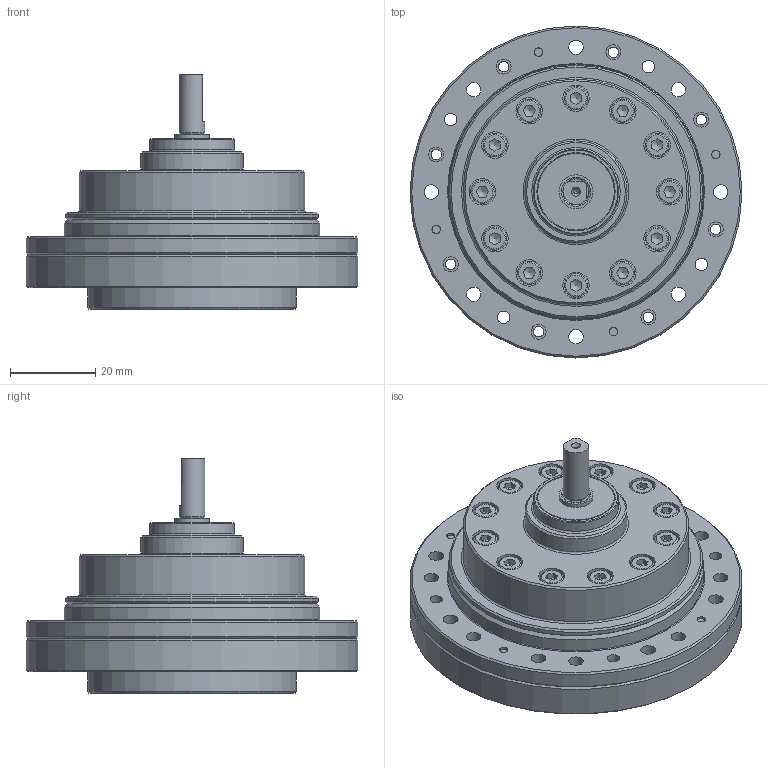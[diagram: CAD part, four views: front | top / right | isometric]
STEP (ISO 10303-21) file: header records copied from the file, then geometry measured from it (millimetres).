
FILE_DESCRIPTION(/* description */ (''),/* implementation_level */ '2;1');
FILE_NAME(/* name */ 'C:\Users\yin210\Desktop\CPU\14\DSC-14-AJ-M.stp',/* time_stamp */ '2022-05-20T14:44:18+08:00',/* author */ ('yin210'),/* organization */ (''),/* preprocessor_version */ 'ST-DEVELOPER v15.2',/* originating_system */ 'Autodesk Inventor 2014',/* authorisation */ '');
FILE_SCHEMA (('AUTOMOTIVE_DESIGN { 1 0 10303 214 3 1 1 }'));
Length unit declared in the file: centimetre
Products named in the file (1): DSC-14-AJ-M
Bounding box: 78 x 78 x 55 mm (x, y, z)
Volume: 103455.4 mm3; surface area: 22224.7 mm2
Topology: 1 solids, 11 shells, 390 faces, 855 edges, 552 vertices
Faces by surface type: plane 187, cylinder 119, cone 56, torus 28
Full cylindrical faces by diameter (mm): 1 x1, 2 x4, 2.013 x10, 2.459 x28, 2.5 x4, 2.9 x8, 3.4 x8, 3.5 x8, 4.5 x4, 5.5 x20, 6 x1, 6.2 x12, 8 x1, 18 x1, 20 x1, 24 x1, 36 x1, 49 x1, 53 x1, 59.5 x1, 60 x1, 78 x2
Entity records: 9210 total; most frequent: CARTESIAN_POINT 1655, DIRECTION 1562, ORIENTED_EDGE 1172, EDGE_LOOP 706, AXIS2_PLACEMENT_3D 681, EDGE_CURVE 586, VERTEX_POINT 486, ADVANCED_FACE 390
